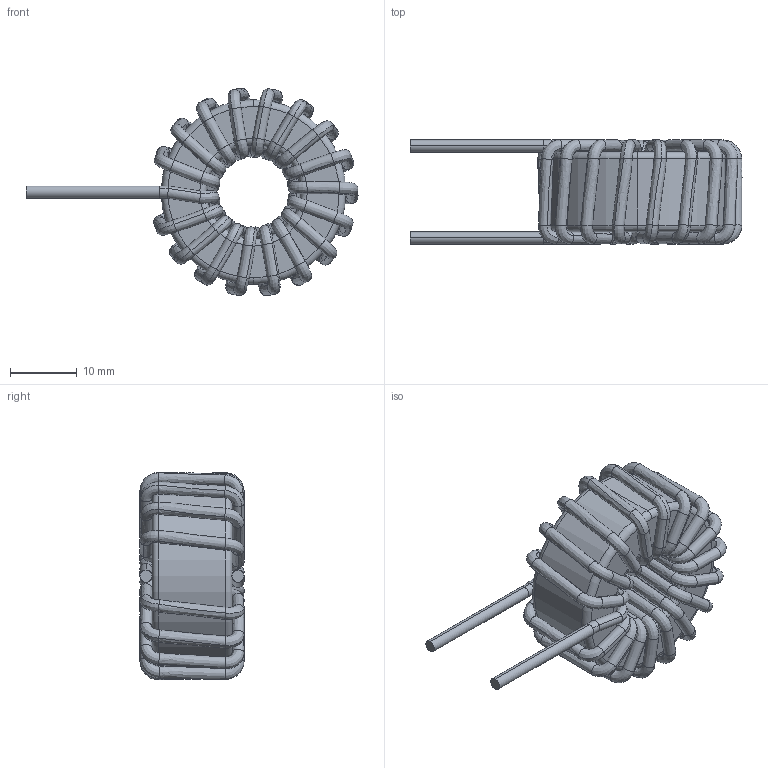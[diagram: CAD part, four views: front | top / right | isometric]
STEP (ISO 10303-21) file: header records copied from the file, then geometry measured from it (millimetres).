
FILE_DESCRIPTION (( 'STEP AP214' ), '1' );
FILE_NAME ('HF270-250M-12.8AV REV.B.STEP', '2018-10-30T08:05:18', ( '' ), ( '' ), 'SwSTEP 2.0', 'SolidWorks 2015', '' );
FILE_SCHEMA (( 'AUTOMOTIVE_DESIGN' ));
Length unit declared in the file: millimetre
Products named in the file (1): HF270-250M-12.8AV REV.B
Bounding box: 49.77 x 15.61 x 31.1 mm (x, y, z)
Volume: 7317 mm3; surface area: 6811.1 mm2
Topology: 4 solids, 4 shells, 310 faces, 616 edges, 314 vertices
Faces by surface type: bspline 282, cylinder 12, torus 8, plane 8
Entity records: 30269 total; most frequent: CARTESIAN_POINT 21997, ORIENTED_EDGE 1232, DIRECTION 698, EDGE_CURVE 616, AXIS2_PLACEMENT_3D 343, UNCERTAINTY_MEASURE_WITH_UNIT 316, COLOUR_RGB 315, SURFACE_SIDE_STYLE 315
